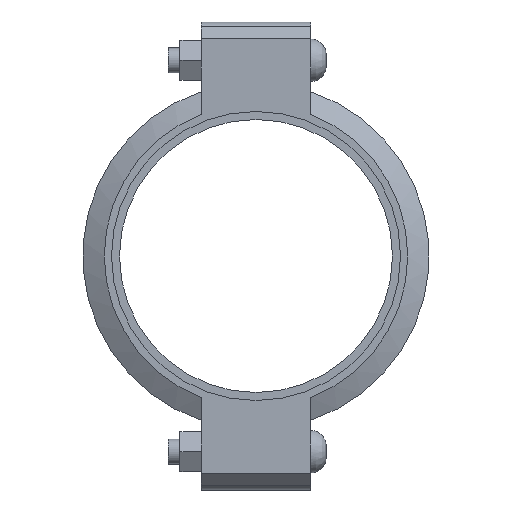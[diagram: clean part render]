
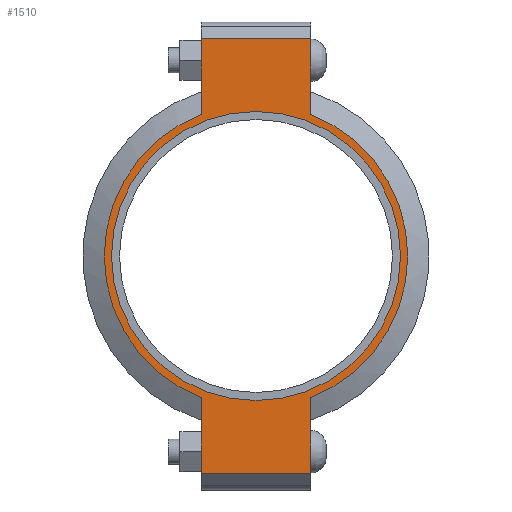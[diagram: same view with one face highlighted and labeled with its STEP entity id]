
A CAD part, left-side view. The second image highlights one B-rep face of the part: STEP entity #1510.
In plain terms, the highlighted planar face has unit normal (-1, 0, 0) as drawn and (0, 0, 1) by its records, which use the part's own axes.
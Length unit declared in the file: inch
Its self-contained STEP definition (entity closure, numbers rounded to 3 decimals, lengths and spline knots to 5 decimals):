
#134=LINE('',#2635,#227);
#142=LINE('',#2671,#235);
#149=LINE('',#2692,#242);
#158=LINE('',#2724,#251);
#159=LINE('',#2728,#252);
#160=LINE('',#2730,#253);
#227=VECTOR('',#2155,0.3937);
#235=VECTOR('',#2171,0.3937);
#242=VECTOR('',#2190,0.3937);
#251=VECTOR('',#2215,0.3937);
#252=VECTOR('',#2220,0.3937);
#253=VECTOR('',#2221,0.3937);
#309=FACE_BOUND('',#487,.T.);
#381=FACE_OUTER_BOUND('',#486,.T.);
#486=EDGE_LOOP('',(#1251,#1252,#1253,#1254,#1255,#1256,#1257,#1258));
#487=EDGE_LOOP('',(#1259));
#559=CIRCLE('',#1729,4.3125);
#585=CIRCLE('',#1788,4.53);
#586=CIRCLE('',#1789,4.53);
#651=VERTEX_POINT('',#2451);
#694=VERTEX_POINT('',#2632);
#695=VERTEX_POINT('',#2634);
#706=VERTEX_POINT('',#2666);
#707=VERTEX_POINT('',#2670);
#714=VERTEX_POINT('',#2689);
#715=VERTEX_POINT('',#2691);
#725=VERTEX_POINT('',#2727);
#726=VERTEX_POINT('',#2729);
#807=EDGE_CURVE('',#651,#651,#559,.T.);
#868=EDGE_CURVE('',#695,#694,#134,.T.);
#882=EDGE_CURVE('',#707,#706,#142,.T.);
#892=EDGE_CURVE('',#715,#714,#149,.T.);
#907=EDGE_CURVE('',#707,#694,#158,.T.);
#908=EDGE_CURVE('',#706,#715,#585,.T.);
#909=EDGE_CURVE('',#725,#714,#159,.T.);
#910=EDGE_CURVE('',#725,#726,#160,.T.);
#911=EDGE_CURVE('',#726,#695,#586,.T.);
#1251=ORIENTED_EDGE('',*,*,#907,.F.);
#1252=ORIENTED_EDGE('',*,*,#882,.T.);
#1253=ORIENTED_EDGE('',*,*,#908,.T.);
#1254=ORIENTED_EDGE('',*,*,#892,.T.);
#1255=ORIENTED_EDGE('',*,*,#909,.F.);
#1256=ORIENTED_EDGE('',*,*,#910,.T.);
#1257=ORIENTED_EDGE('',*,*,#911,.T.);
#1258=ORIENTED_EDGE('',*,*,#868,.T.);
#1259=ORIENTED_EDGE('',*,*,#807,.T.);
#1352=PLANE('',#1787);
#1510=ADVANCED_FACE('',(#381,#309),#1352,.T.);
#1729=AXIS2_PLACEMENT_3D('',#2453,#2031,#2032);
#1787=AXIS2_PLACEMENT_3D('',#2725,#2216,#2217);
#1788=AXIS2_PLACEMENT_3D('',#2726,#2218,#2219);
#1789=AXIS2_PLACEMENT_3D('',#2731,#2222,#2223);
#2031=DIRECTION('center_axis',(0.,0.,-1.));
#2032=DIRECTION('ref_axis',(-1.,0.,0.));
#2155=DIRECTION('',(-1.,0.,0.));
#2171=DIRECTION('',(1.,0.,0.));
#2190=DIRECTION('',(1.,0.,0.));
#2215=DIRECTION('',(0.,1.,0.));
#2216=DIRECTION('center_axis',(0.,0.,1.));
#2217=DIRECTION('ref_axis',(1.,0.,0.));
#2218=DIRECTION('center_axis',(0.,0.,1.));
#2219=DIRECTION('ref_axis',(-1.,0.,0.));
#2220=DIRECTION('',(0.,-1.,0.));
#2221=DIRECTION('',(-1.,0.,0.));
#2222=DIRECTION('center_axis',(0.,0.,1.));
#2223=DIRECTION('ref_axis',(-1.,0.,0.));
#2451=CARTESIAN_POINT('',(4.3125,0.,1.16));
#2453=CARTESIAN_POINT('Origin',(0.,0.,1.16));
#2632=CARTESIAN_POINT('',(-6.485,1.63,1.16));
#2634=CARTESIAN_POINT('',(-4.22658,1.63,1.16));
#2635=CARTESIAN_POINT('',(-6.985,1.63,1.16));
#2666=CARTESIAN_POINT('',(-4.22658,-1.63,1.16));
#2670=CARTESIAN_POINT('',(-6.485,-1.63,1.16));
#2671=CARTESIAN_POINT('',(6.985,-1.63,1.16));
#2689=CARTESIAN_POINT('',(6.485,-1.63,1.16));
#2691=CARTESIAN_POINT('',(4.22658,-1.63,1.16));
#2692=CARTESIAN_POINT('',(6.985,-1.63,1.16));
#2724=CARTESIAN_POINT('',(-6.485,0.815,1.16));
#2725=CARTESIAN_POINT('Origin',(0.,0.,
1.16));
#2726=CARTESIAN_POINT('Origin',(0.,0.,1.16));
#2727=CARTESIAN_POINT('',(6.485,1.63,1.16));
#2728=CARTESIAN_POINT('',(6.485,-0.815,1.16));
#2729=CARTESIAN_POINT('',(4.22658,1.63,1.16));
#2730=CARTESIAN_POINT('',(-6.985,1.63,1.16));
#2731=CARTESIAN_POINT('Origin',(0.,0.,1.16));
